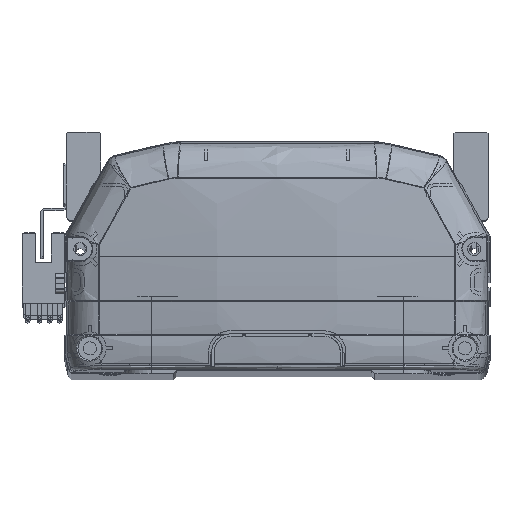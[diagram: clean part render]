
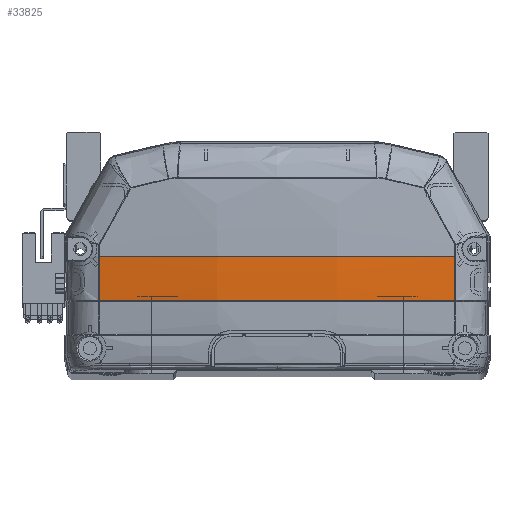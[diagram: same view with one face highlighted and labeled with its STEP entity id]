
A CAD part, top view. The second image highlights one B-rep face of the part: STEP entity #33825.
In plain terms, the highlighted free-form (B-spline) face has degree [3, 3] with [4, 4] control points.
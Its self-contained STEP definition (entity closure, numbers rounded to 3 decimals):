
#779 = EDGE_CURVE ( 'NONE', #43197, #14789, #11129, .T. ) ;
#2571 = EDGE_LOOP ( 'NONE', ( #6441, #18970, #3367, #21783, #42427 ) ) ;
#2679 = CARTESIAN_POINT ( 'NONE',  ( 19.295, 36., -11.535 ) ) ;
#2882 = CARTESIAN_POINT ( 'NONE',  ( 38.071, 22.225, -7.566 ) ) ;
#3085 = FACE_OUTER_BOUND ( 'NONE', #2571, .T. ) ;
#3139 = DIRECTION ( 'NONE',  ( 0., 0., -1. ) ) ;
#3342 = EDGE_CURVE ( 'NONE', #29039, #43197, #8825, .T. ) ;
#3367 = ORIENTED_EDGE ( 'NONE', *, *, #3342, .F. ) ;
#4493 = VERTEX_POINT ( 'NONE', #7587 ) ;
#5623 = DIRECTION ( 'NONE',  ( -1., 0., 0. ) ) ;
#5776 = B_SPLINE_CURVE_WITH_KNOTS ( 'NONE', 3,
 ( #32399, #10403, #2882, #13962, #24595, #35620, #13648, #46745, #39325, #25219, #13813, #39648, #10267 ),
 .UNSPECIFIED., .F., .F.,
 ( 4, 2, 2, 1, 2, 2, 4 ),
 ( 0., 0.25, 0.375, 0.438, 0.469, 0.5, 1. ),
 .UNSPECIFIED. ) ;
#5954 = CARTESIAN_POINT ( 'NONE',  ( -56.652, 26.814, -5.045 ) ) ;
#6441 = ORIENTED_EDGE ( 'NONE', *, *, #18037, .F. ) ;
#6905 = CARTESIAN_POINT ( 'NONE',  ( 56.652, 26.806, -5.044 ) ) ;
#7587 = CARTESIAN_POINT ( 'NONE',  ( -56.647, 36., -5.158 ) ) ;
#8825 = B_SPLINE_CURVE_WITH_KNOTS ( 'NONE', 3,
 ( #32435, #6905, #43223, #36144 ),
 .UNSPECIFIED., .F., .F.,
 ( 4, 4 ),
 ( 0., 1. ),
 .UNSPECIFIED. ) ;
#10069 = CARTESIAN_POINT ( 'NONE',  ( -19.295, 21.828, -11.186 ) ) ;
#10223 = CARTESIAN_POINT ( 'NONE',  ( 19.295, 21.828, -11.186 ) ) ;
#10267 = CARTESIAN_POINT ( 'NONE',  ( -56.661, 22.225, -4.818 ) ) ;
#10403 = CARTESIAN_POINT ( 'NONE',  ( 47.432, 22.225, -6.377 ) ) ;
#10471 = CARTESIAN_POINT ( 'NONE',  ( -56.661, 22.225, -4.818 ) ) ;
#11129 = CIRCLE ( 'NONE', #23911, 6395.966 ) ;
#13648 = CARTESIAN_POINT ( 'NONE',  ( 8.363, 22.225, -9.48 ) ) ;
#13813 = CARTESIAN_POINT ( 'NONE',  ( -19.28, 22.225, -9.565 ) ) ;
#13962 = CARTESIAN_POINT ( 'NONE',  ( 23.877, 22.225, -8.763 ) ) ;
#14789 = VERTEX_POINT ( 'NONE', #45662 ) ;
#16863 = B_SPLINE_CURVE_WITH_KNOTS ( 'NONE', 3,
 ( #42545, #20567, #5954, #42718 ),
 .UNSPECIFIED., .F., .F.,
 ( 4, 4 ),
 ( 0., 1. ),
 .UNSPECIFIED. ) ;
#17606 = CARTESIAN_POINT ( 'NONE',  ( 57.335, 22.148, -4.7 ) ) ;
#18037 = EDGE_CURVE ( 'NONE', #14789, #4493, #27928, .T. ) ;
#18970 = ORIENTED_EDGE ( 'NONE', *, *, #779, .F. ) ;
#20567 = CARTESIAN_POINT ( 'NONE',  ( -56.647, 31.405, -5.158 ) ) ;
#20819 = CARTESIAN_POINT ( 'NONE',  ( -57.335, 22.148, -4.7 ) ) ;
#20989 = CARTESIAN_POINT ( 'NONE',  ( 57.335, 26.762, -4.928 ) ) ;
#21156 = CARTESIAN_POINT ( 'NONE',  ( -19.295, 36., -11.535 ) ) ;
#21171 = CARTESIAN_POINT ( 'NONE',  ( 56.661, 22.225, -4.818 ) ) ;
#21280 = EDGE_CURVE ( 'NONE', #4493, #32939, #16863, .T. ) ;
#21783 = ORIENTED_EDGE ( 'NONE', *, *, #23748, .T. ) ;
#23748 = EDGE_CURVE ( 'NONE', #29039, #32939, #5776, .T. ) ;
#23911 = AXIS2_PLACEMENT_3D ( 'NONE', #31162, #31315, #5623 ) ;
#24595 = CARTESIAN_POINT ( 'NONE',  ( 19.121, 22.225, -9.064 ) ) ;
#25161 = DIRECTION ( 'NONE',  ( 0., 1., 0. ) ) ;
#25219 = CARTESIAN_POINT ( 'NONE',  ( 1.152, 22.225, -9.568 ) ) ;
#27928 = CIRCLE ( 'NONE', #37907, 340.733 ) ;
#28403 = CARTESIAN_POINT ( 'NONE',  ( -57.335, 36., -5.042 ) ) ;
#28558 = CARTESIAN_POINT ( 'NONE',  ( 57.335, 31.38, -5.042 ) ) ;
#29039 = VERTEX_POINT ( 'NONE', #21171 ) ;
#31162 = CARTESIAN_POINT ( 'NONE',  ( 6452.613, 35.969, -5.158 ) ) ;
#31315 = DIRECTION ( 'NONE',  ( 0., 0., -1. ) ) ;
#32399 = CARTESIAN_POINT ( 'NONE',  ( 56.661, 22.225, -4.818 ) ) ;
#32435 = CARTESIAN_POINT ( 'NONE',  ( 56.661, 22.225, -4.818 ) ) ;
#32939 = VERTEX_POINT ( 'NONE', #10471 ) ;
#33825 = ADVANCED_FACE ( 'NONE', ( #3085 ), #40313, .T. ) ;
#35620 = CARTESIAN_POINT ( 'NONE',  ( 11.954, 22.225, -9.367 ) ) ;
#35732 = CARTESIAN_POINT ( 'NONE',  ( 19.295, 31.274, -11.535 ) ) ;
#35898 = CARTESIAN_POINT ( 'NONE',  ( -57.335, 31.38, -5.042 ) ) ;
#36057 = CARTESIAN_POINT ( 'NONE',  ( -19.295, 31.274, -11.535 ) ) ;
#36144 = CARTESIAN_POINT ( 'NONE',  ( 56.647, 35.969, -5.158 ) ) ;
#37907 = AXIS2_PLACEMENT_3D ( 'NONE', #39757, #25161, #3139 ) ;
#38059 = CARTESIAN_POINT ( 'NONE',  ( 56.647, 35.969, -5.158 ) ) ;
#39283 = CARTESIAN_POINT ( 'NONE',  ( 19.295, 26.549, -11.419 ) ) ;
#39325 = CARTESIAN_POINT ( 'NONE',  ( 2.357, 22.225, -9.562 ) ) ;
#39648 = CARTESIAN_POINT ( 'NONE',  ( -38.235, 22.225, -7.93 ) ) ;
#39757 = CARTESIAN_POINT ( 'NONE',  ( 0., 36., 330.833 ) ) ;
#40313 =( BOUNDED_SURFACE ( )  B_SPLINE_SURFACE ( 3, 3, ( 
 ( #17606, #20989, #28558, #46704 ),
 ( #10223, #39283, #35732, #2679 ),
 ( #10069, #43149, #36057, #21156 ),
 ( #20819, #46546, #35898, #28403 ) ),
 .UNSPECIFIED., .F., .F., .F. ) 
 B_SPLINE_SURFACE_WITH_KNOTS ( ( 4, 4 ),
 ( 4, 4 ),
 ( 0., 1. ),
 ( 0., 1. ),
 .UNSPECIFIED. ) 
 GEOMETRIC_REPRESENTATION_ITEM ( )  RATIONAL_B_SPLINE_SURFACE ( (
 ( 1., 1., 1., 1.),
 ( 0.99, 0.99, 0.99, 0.99),
 ( 0.99, 0.99, 0.99, 0.99),
 ( 1., 1., 1., 1.) ) ) 
 REPRESENTATION_ITEM ( '' )  SURFACE ( )  );
#42427 = ORIENTED_EDGE ( 'NONE', *, *, #21280, .F. ) ;
#42545 = CARTESIAN_POINT ( 'NONE',  ( -56.647, 36., -5.158 ) ) ;
#42718 = CARTESIAN_POINT ( 'NONE',  ( -56.661, 22.225, -4.818 ) ) ;
#43149 = CARTESIAN_POINT ( 'NONE',  ( -19.295, 26.549, -11.419 ) ) ;
#43197 = VERTEX_POINT ( 'NONE', #38059 ) ;
#43223 = CARTESIAN_POINT ( 'NONE',  ( 56.647, 31.387, -5.158 ) ) ;
#45662 = CARTESIAN_POINT ( 'NONE',  ( 56.647, 36., -5.158 ) ) ;
#46546 = CARTESIAN_POINT ( 'NONE',  ( -57.335, 26.762, -4.928 ) ) ;
#46704 = CARTESIAN_POINT ( 'NONE',  ( 57.335, 36., -5.042 ) ) ;
#46745 = CARTESIAN_POINT ( 'NONE',  ( 4.761, 22.225, -9.537 ) ) ;
